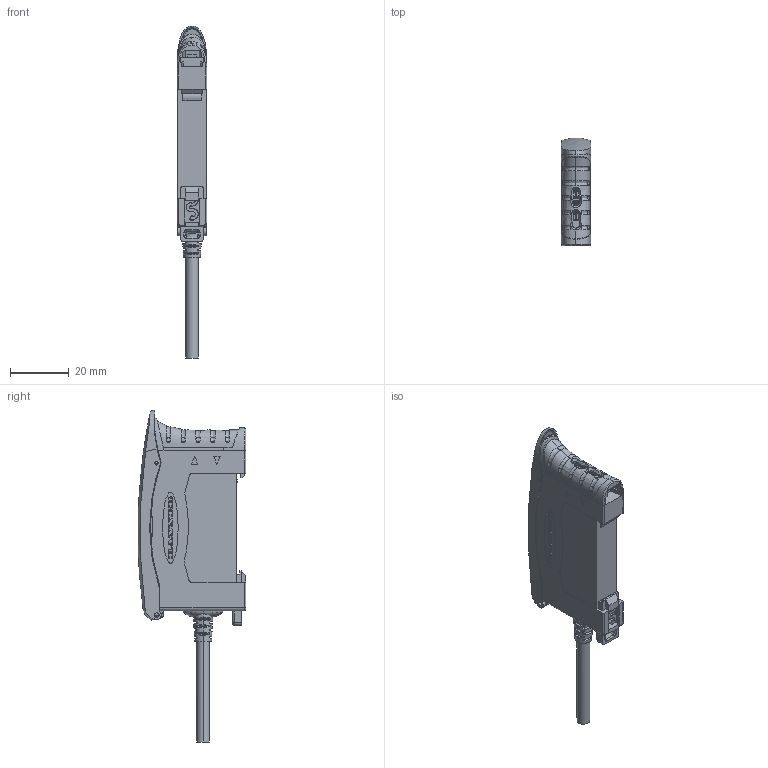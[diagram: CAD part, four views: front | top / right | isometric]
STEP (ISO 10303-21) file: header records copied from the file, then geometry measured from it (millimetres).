
FILE_DESCRIPTION (( 'STEP AP214' ), '1' );
FILE_NAME ('d-10 amplifier.STEP', '2012-10-18T16:05:49', ( '' ), ( '' ), 'SwSTEP 2.0', 'SolidWorks 2012', '' );
FILE_SCHEMA (( 'AUTOMOTIVE_DESIGN' ));
Length unit declared in the file: inch
Products named in the file (1): d-10 amplifier
Bounding box: 10.1 x 36.53 x 112.57 mm (x, y, z)
Volume: 8431.9 mm3; surface area: 15227.2 mm2
Topology: 1 solids, 1 shells, 1584 faces, 4473 edges, 2910 vertices
Faces by surface type: plane 720, bspline 558, cylinder 292, cone 14
Entity records: 81738 total; most frequent: CARTESIAN_POINT 36956, ORIENTED_EDGE 8902, DIRECTION 4505, EDGE_CURVE 4451, VERTEX_POINT 2910, LINE 2123, VECTOR 2123, B_SPLINE_CURVE_WITH_KNOTS 2015
